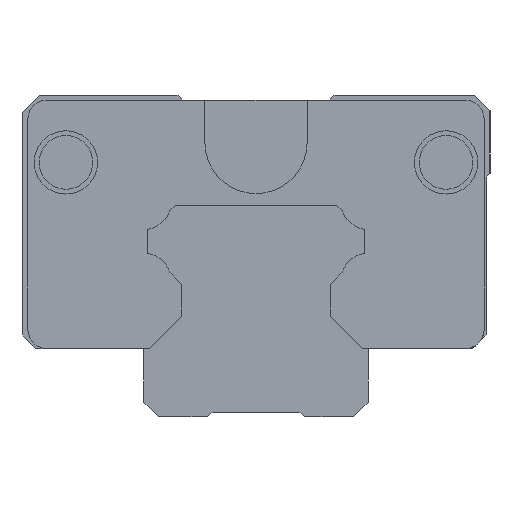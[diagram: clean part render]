
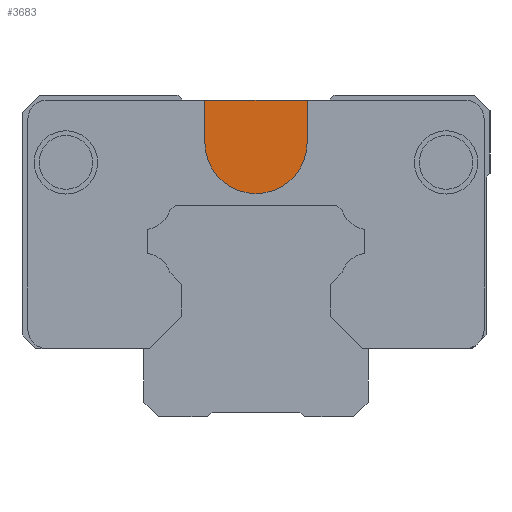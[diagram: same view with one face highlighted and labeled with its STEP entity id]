
A CAD part, left-side view. The second image highlights one B-rep face of the part: STEP entity #3683.
In plain terms, the highlighted planar face has unit normal (-1, 0, 0).
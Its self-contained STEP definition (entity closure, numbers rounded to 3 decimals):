
#3568=CARTESIAN_POINT('',(152.66,5.25,32.5));
#3569=VERTEX_POINT('',#3568);
#3570=CARTESIAN_POINT('',(152.66,5.25,28.15));
#3571=VERTEX_POINT('',#3570);
#3572=CARTESIAN_POINT('',(152.66,5.25,32.5));
#3573=DIRECTION('',(0.0,0.0,-1.0));
#3574=VECTOR('',#3573,4.35);
#3575=LINE('',#3572,#3574);
#3576=EDGE_CURVE('',#3569,#3571,#3575,.T.);
#3608=CARTESIAN_POINT('',(152.66,-5.25,28.15));
#3609=VERTEX_POINT('',#3608);
#3610=CARTESIAN_POINT('',(152.66,0.,28.15));
#3611=DIRECTION('',(-1.0,0.0,0.0));
#3612=DIRECTION('',(0.0,-1.0,0.0));
#3613=AXIS2_PLACEMENT_3D('',#3610,#3611,#3612);
#3614=CIRCLE('',#3613,5.25);
#3615=EDGE_CURVE('',#3571,#3609,#3614,.T.);
#3641=CARTESIAN_POINT('',(152.66,-5.25,32.5));
#3642=VERTEX_POINT('',#3641);
#3643=CARTESIAN_POINT('',(152.66,-5.25,28.15));
#3644=DIRECTION('',(0.0,0.0,1.0));
#3645=VECTOR('',#3644,4.35);
#3646=LINE('',#3643,#3645);
#3647=EDGE_CURVE('',#3609,#3642,#3646,.T.);
#3667=CARTESIAN_POINT('',(152.66,0.,28.567));
#3668=DIRECTION('',(1.0,0.0,0.0));
#3669=DIRECTION('',(0.0,0.0,-1.0));
#3670=AXIS2_PLACEMENT_3D('',#3667,#3668,#3669);
#3671=PLANE('',#3670);
#3672=CARTESIAN_POINT('',(152.66,5.25,32.5));
#3673=DIRECTION('',(0.0,-1.0,0.0));
#3674=VECTOR('',#3673,10.5);
#3675=LINE('',#3672,#3674);
#3676=EDGE_CURVE('',#3569,#3642,#3675,.T.);
#3677=ORIENTED_EDGE('',*,*,#3676,.F.);
#3678=ORIENTED_EDGE('',*,*,#3576,.T.);
#3679=ORIENTED_EDGE('',*,*,#3615,.T.);
#3680=ORIENTED_EDGE('',*,*,#3647,.T.);
#3681=EDGE_LOOP('',(#3677,#3678,#3679,#3680));
#3682=FACE_OUTER_BOUND('',#3681,.T.);
#3683=ADVANCED_FACE('',(#3682),#3671,.F.);
